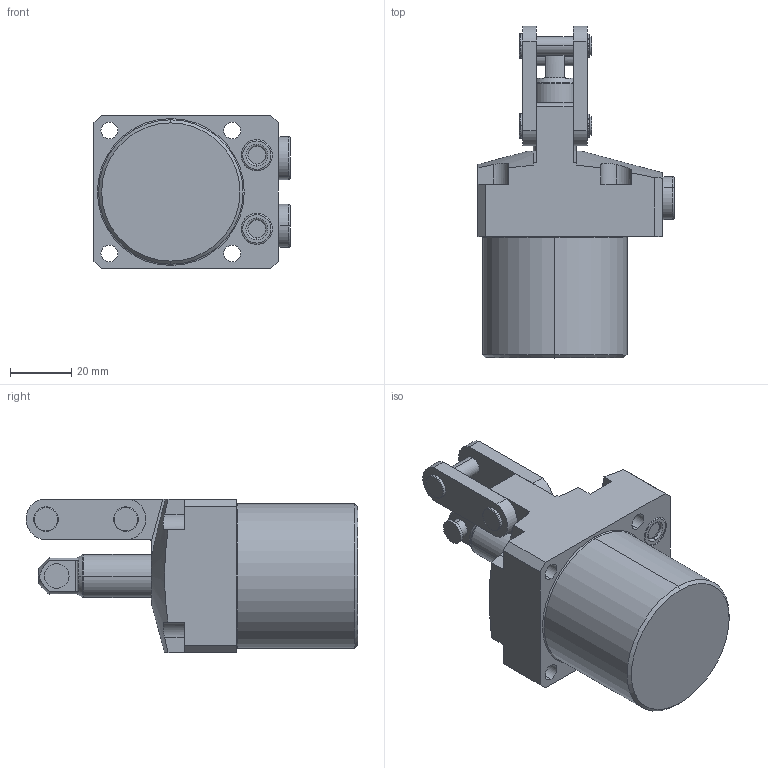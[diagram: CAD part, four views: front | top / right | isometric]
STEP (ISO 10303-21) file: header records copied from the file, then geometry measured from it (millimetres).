
FILE_DESCRIPTION(/* description */ (''),/* implementation_level */ '2;1');
FILE_NAME(/* name */ 'TPC04-L.stp',/* time_stamp */ '2025-01-05T10:32:16+08:00',/* author */ (''),/* organization */ (''),/* preprocessor_version */ 'ST-DEVELOPER v16.7',/* originating_system */ 'SIEMENS PLM Software NX 12.0',/* authorisation */ '');
FILE_SCHEMA (('AUTOMOTIVE_DESIGN { 1 0 10303 214 3 1 1 1 }'));
Length unit declared in the file: millimetre
Products named in the file (5): TPC04-L-01; TPC04-L-02; TPC04-L-03; TPC04-L-04; TPC04-L_stp
Assembly tree (5 placements, depth 2):
  TPC04-L_stp
    TPC04-L-04  x2
    TPC04-L-03
    TPC04-L-02
    TPC04-L-01
Bounding box: 63.8 x 107.97 x 50 mm (x, y, z)
Volume: 146924 mm3; surface area: 27557.3 mm2
Topology: 5 solids, 7 shells, 286 faces, 679 edges, 432 vertices
Faces by surface type: cylinder 120, plane 111, torus 34, cone 19, extrusion 2
Entity records: 8032 total; most frequent: CARTESIAN_POINT 1542, DIRECTION 1425, ORIENTED_EDGE 1266, EDGE_CURVE 633, AXIS2_PLACEMENT_3D 568, VERTEX_POINT 404, EDGE_LOOP 307, CIRCLE 300
